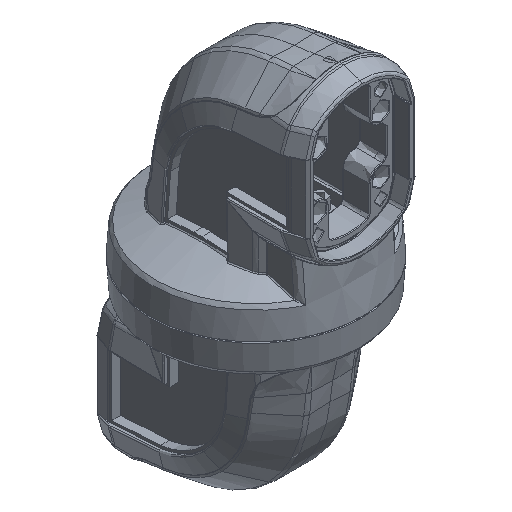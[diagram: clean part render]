
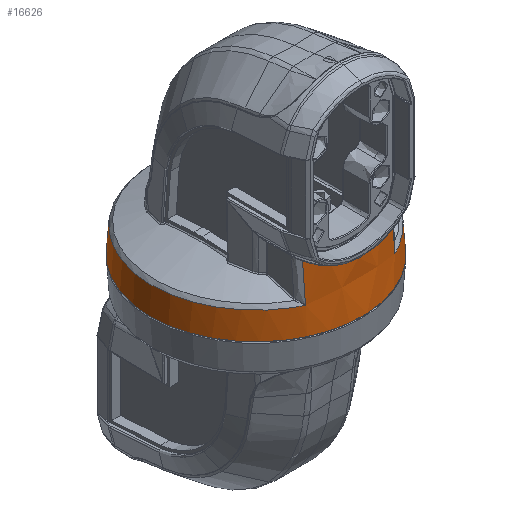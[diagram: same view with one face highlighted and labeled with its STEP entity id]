
A CAD part, isometric view. The second image highlights one B-rep face of the part: STEP entity #16626.
In plain terms, the highlighted conical face has half-angle 4 degrees and reference radius 84 mm.
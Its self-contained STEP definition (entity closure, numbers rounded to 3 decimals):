
#7449=CONICAL_SURFACE('',#57259,84.,4.);
#9610=(
BOUNDED_CURVE()
B_SPLINE_CURVE(3,(#123919,#123920,#123921,#123922,#123923,#123924,#123925,
#123926,#123927,#123928),.UNSPECIFIED.,.F.,.F.)
B_SPLINE_CURVE_WITH_KNOTS((4,2,2,2,4),(0.,0.246,0.497,
0.749,1.),.UNSPECIFIED.)
CURVE()
GEOMETRIC_REPRESENTATION_ITEM()
RATIONAL_B_SPLINE_CURVE((1.,1.,1.,1.,1.,1.,1.,1.,1.,1.))
REPRESENTATION_ITEM('')
);
#13821=CIRCLE('',#57252,83.963);
#13822=CIRCLE('',#57256,82.519);
#13823=CIRCLE('',#57257,82.519);
#13824=CIRCLE('',#57258,82.519);
#16626=ADVANCED_FACE('',(#19511,#19512),#7449,.T.);
#19511=FACE_BOUND('',#21102,.T.);
#19512=FACE_BOUND('',#21103,.T.);
#21102=EDGE_LOOP('',(#31178));
#21103=EDGE_LOOP('',(#31179,#31180,#31181,#31182,#31183,#31184,#31185,#31186,
#31187,#31188,#31189));
#23874=LINE('',#123901,#25080);
#23875=LINE('',#123906,#25081);
#25080=VECTOR('',#61769,1.);
#25081=VECTOR('',#61772,1.);
#31178=ORIENTED_EDGE('',*,*,#48296,.T.);
#31179=ORIENTED_EDGE('',*,*,#48297,.F.);
#31180=ORIENTED_EDGE('',*,*,#48298,.T.);
#31181=ORIENTED_EDGE('',*,*,#48299,.T.);
#31182=ORIENTED_EDGE('',*,*,#48299,.F.);
#31183=ORIENTED_EDGE('',*,*,#48300,.T.);
#31184=ORIENTED_EDGE('',*,*,#48301,.F.);
#31185=ORIENTED_EDGE('',*,*,#48302,.F.);
#31186=ORIENTED_EDGE('',*,*,#48303,.T.);
#31187=ORIENTED_EDGE('',*,*,#48304,.T.);
#31188=ORIENTED_EDGE('',*,*,#48305,.F.);
#31189=ORIENTED_EDGE('',*,*,#48297,.T.);
#42799=VERTEX_POINT('',#123897);
#42800=VERTEX_POINT('',#123902);
#42801=VERTEX_POINT('',#123903);
#42802=VERTEX_POINT('',#123905);
#42803=VERTEX_POINT('',#123907);
#42804=VERTEX_POINT('',#123909);
#42805=VERTEX_POINT('',#123918);
#42806=VERTEX_POINT('',#123929);
#42807=VERTEX_POINT('',#123940);
#42808=VERTEX_POINT('',#123949);
#48296=EDGE_CURVE('',#42799,#42799,#13821,.T.);
#48297=EDGE_CURVE('',#42800,#42801,#23874,.T.);
#48298=EDGE_CURVE('',#42800,#42802,#13822,.T.);
#48299=EDGE_CURVE('',#42802,#42803,#23875,.T.);
#48300=EDGE_CURVE('',#42802,#42804,#13823,.T.);
#48301=EDGE_CURVE('',#42805,#42804,#55110,.T.);
#48302=EDGE_CURVE('',#42806,#42805,#9610,.T.);
#48303=EDGE_CURVE('',#42806,#42807,#55111,.T.);
#48304=EDGE_CURVE('',#42807,#42808,#55112,.T.);
#48305=EDGE_CURVE('',#42800,#42808,#13824,.T.);
#55110=B_SPLINE_CURVE_WITH_KNOTS('',3,(#123910,#123911,#123912,#123913,#123914,
#123915,#123916,#123917),.UNSPECIFIED.,.F.,.F.,(4,2,2,4),(0.,0.385,
0.926,1.),.UNSPECIFIED.);
#55111=B_SPLINE_CURVE_WITH_KNOTS('',3,(#123930,#123931,#123932,#123933,#123934,
#123935,#123936,#123937,#123938,#123939),.UNSPECIFIED.,.F.,.F.,(4,2,2,2,
4),(0.,0.25,0.375,0.5,1.),.UNSPECIFIED.);
#55112=B_SPLINE_CURVE_WITH_KNOTS('',3,(#123941,#123942,#123943,#123944,#123945,
#123946,#123947,#123948),.UNSPECIFIED.,.F.,.F.,(4,2,2,4),(0.,0.385,
0.926,1.),.UNSPECIFIED.);
#57252=AXIS2_PLACEMENT_3D('',#123896,#61761,#61762);
#57256=AXIS2_PLACEMENT_3D('',#123904,#61770,#61771);
#57257=AXIS2_PLACEMENT_3D('',#123908,#61773,#61774);
#57258=AXIS2_PLACEMENT_3D('',#123950,#61775,#61776);
#57259=AXIS2_PLACEMENT_3D('',#123951,#61777,#61778);
#61761=DIRECTION('',(0.,0.,1.));
#61762=DIRECTION('',(-1.,0.,0.));
#61769=DIRECTION('',(-0.036,-0.06,-0.998));
#61770=DIRECTION('',(0.,0.,-1.));
#61771=DIRECTION('',(1.,0.,0.));
#61772=DIRECTION('',(0.036,-0.06,-0.998));
#61773=DIRECTION('',(0.,0.,-1.));
#61774=DIRECTION('',(-1.,0.,0.));
#61775=DIRECTION('',(0.,0.,1.));
#61776=DIRECTION('',(1.,0.,0.));
#61777=DIRECTION('',(0.,0.,-1.));
#61778=DIRECTION('',(1.,0.,0.));
#123896=CARTESIAN_POINT('',(425.181,148.719,-151.179));
#123897=CARTESIAN_POINT('',(341.218,148.719,-151.179));
#123901=CARTESIAN_POINT('',(382.979,77.788,-130.773));
#123902=CARTESIAN_POINT('',(382.987,77.802,-130.538));
#123903=CARTESIAN_POINT('',(382.97,77.774,-131.008));
#123904=CARTESIAN_POINT('',(425.181,148.719,-130.538));
#123905=CARTESIAN_POINT('',(467.375,77.802,-130.538));
#123906=CARTESIAN_POINT('',(467.383,77.788,-130.773));
#123907=CARTESIAN_POINT('',(467.392,77.774,-131.008));
#123908=CARTESIAN_POINT('',(425.181,148.719,-130.538));
#123909=CARTESIAN_POINT('',(460.524,74.151,-130.538));
#123910=CARTESIAN_POINT('',(460.594,76.448,-101.387));
#123911=CARTESIAN_POINT('',(460.585,76.152,-105.13));
#123912=CARTESIAN_POINT('',(460.576,75.856,-108.873));
#123913=CARTESIAN_POINT('',(460.554,75.147,-117.868));
#123914=CARTESIAN_POINT('',(460.542,74.734,-123.121));
#123915=CARTESIAN_POINT('',(460.528,74.264,-129.096));
#123916=CARTESIAN_POINT('',(460.526,74.208,-129.817));
#123917=CARTESIAN_POINT('',(460.524,74.151,-130.538));
#123918=CARTESIAN_POINT('',(460.594,76.448,-101.387));
#123919=CARTESIAN_POINT('',(425.181,67.471,-112.347));
#123920=CARTESIAN_POINT('',(428.402,67.472,-112.332));
#123921=CARTESIAN_POINT('',(431.605,67.682,-112.101));
#123922=CARTESIAN_POINT('',(437.901,68.493,-111.165));
#123923=CARTESIAN_POINT('',(441.009,69.101,-110.463));
#123924=CARTESIAN_POINT('',(447.069,70.685,-108.596));
#123925=CARTESIAN_POINT('',(450.017,71.665,-107.423));
#123926=CARTESIAN_POINT('',(455.535,73.872,-104.702));
#123927=CARTESIAN_POINT('',(458.139,75.108,-103.147));
#123928=CARTESIAN_POINT('',(460.594,76.448,-101.387));
#123929=CARTESIAN_POINT('',(425.181,67.471,-112.347));
#123930=CARTESIAN_POINT('',(425.181,67.471,-112.347));
#123931=CARTESIAN_POINT('',(421.954,67.471,-112.346));
#123932=CARTESIAN_POINT('',(418.74,67.681,-112.107));
#123933=CARTESIAN_POINT('',(413.98,68.299,-111.393));
#123934=CARTESIAN_POINT('',(412.404,68.555,-111.096));
#123935=CARTESIAN_POINT('',(409.278,69.167,-110.382));
#123936=CARTESIAN_POINT('',(407.687,69.533,-109.953));
#123937=CARTESIAN_POINT('',(400.236,71.495,-107.64));
#123938=CARTESIAN_POINT('',(394.724,73.743,-104.939));
#123939=CARTESIAN_POINT('',(389.768,76.448,-101.387));
#123940=CARTESIAN_POINT('',(389.768,76.448,-101.387));
#123941=CARTESIAN_POINT('',(389.768,76.448,-101.387));
#123942=CARTESIAN_POINT('',(389.777,76.152,-105.13));
#123943=CARTESIAN_POINT('',(389.786,75.856,-108.873));
#123944=CARTESIAN_POINT('',(389.808,75.147,-117.868));
#123945=CARTESIAN_POINT('',(389.82,74.734,-123.121));
#123946=CARTESIAN_POINT('',(389.834,74.264,-129.096));
#123947=CARTESIAN_POINT('',(389.836,74.208,-129.817));
#123948=CARTESIAN_POINT('',(389.838,74.151,-130.538));
#123949=CARTESIAN_POINT('',(389.838,74.151,-130.538));
#123950=CARTESIAN_POINT('',(425.181,148.719,-130.538));
#123951=CARTESIAN_POINT('',(425.181,148.719,-151.707));
